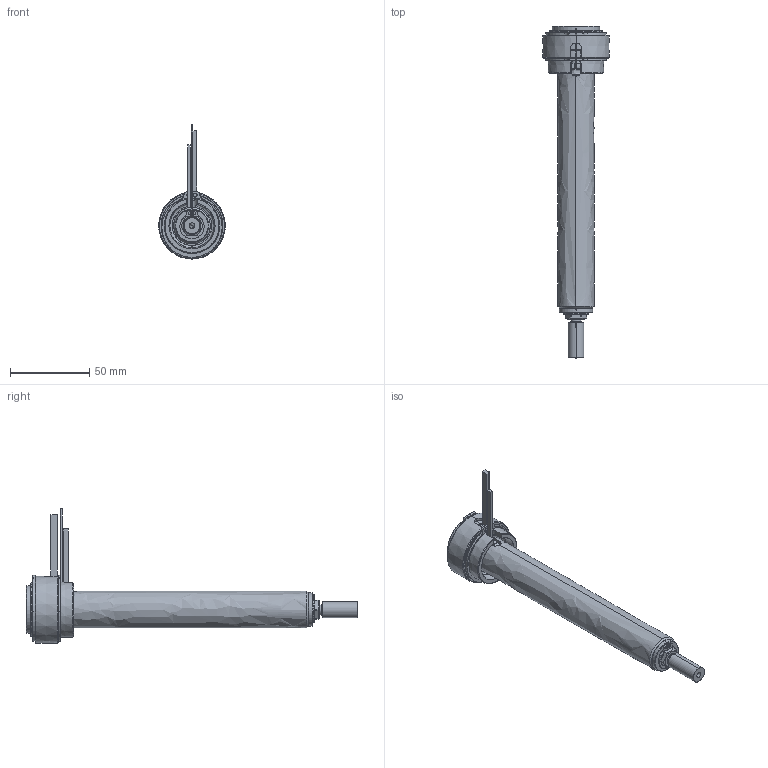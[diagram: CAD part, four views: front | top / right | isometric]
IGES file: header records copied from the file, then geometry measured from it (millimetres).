
Start section: SolidWorks IGES file using analytic representation for surfaces
Global section: file name: C:\Users\luca.EMPAD\Desktop\TEM\UGBE3504-M-A-P-3 [Ød-1.0 P-20 ØC-7.0].IGS; native system: SolidWorks 2012; preprocessor: SolidWorks 2012; author: luca; date: 120330.140600; units: millimetre
Bounding box: 42 x 209 x 84.4 mm (x, y, z)
Surface area: 35701.8 mm2 (no closed solid volume)
Topology: 0 solids, 0 shells, 179 faces, 3222 edges, 3222 vertices
Faces by surface type: revolution 113, bspline 66
